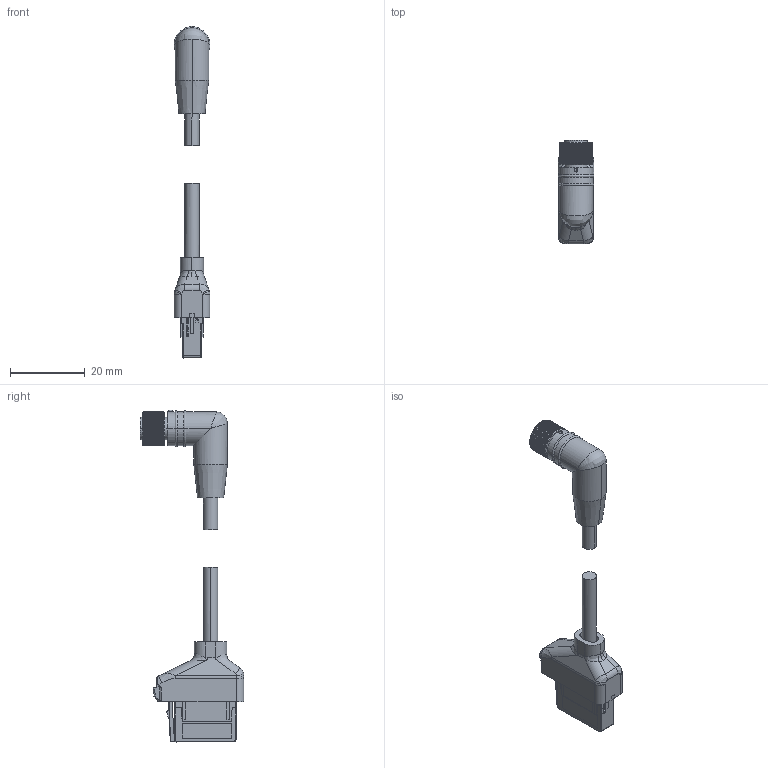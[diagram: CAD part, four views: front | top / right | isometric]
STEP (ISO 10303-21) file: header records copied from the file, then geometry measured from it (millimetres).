
FILE_DESCRIPTION (( 'STEP AP203' ), '1' );
FILE_NAME ('SA-SD-SHLxM_step_01.STEP', '2020-01-26T23:46:14', ( '' ), ( '' ), 'SwSTEP 2.0', 'SolidWorks 2016', '' );
FILE_SCHEMA (( 'CONFIG_CONTROL_DESIGN' ));
Length unit declared in the file: millimetre
Products named in the file (3): e-con側コネクタケーブル_hp; SA-SD-SHLxM_step_01; アブソ_L型コネクタケーブル_hp
Assembly tree (2 placements, depth 2):
  SA-SD-SHLxM_step_01
    アブソ_L型コネクタケーブル_hp
    e-con側コネクタケーブル_hp
Bounding box: 9.6 x 27.65 x 88.8 mm (x, y, z)
Volume: 5087.4 mm3; surface area: 4584.8 mm2
Topology: 3 solids, 3 shells, 1144 faces, 3163 edges, 2018 vertices
Faces by surface type: plane 673, cylinder 271, bspline 170, torus 12, sphere 10, cone 8
Entity records: 41425 total; most frequent: CARTESIAN_POINT 13964, ORIENTED_EDGE 6276, DIRECTION 4797, EDGE_CURVE 3138, VERTEX_POINT 2015, LINE 1937, VECTOR 1937, AXIS2_PLACEMENT_3D 1430
